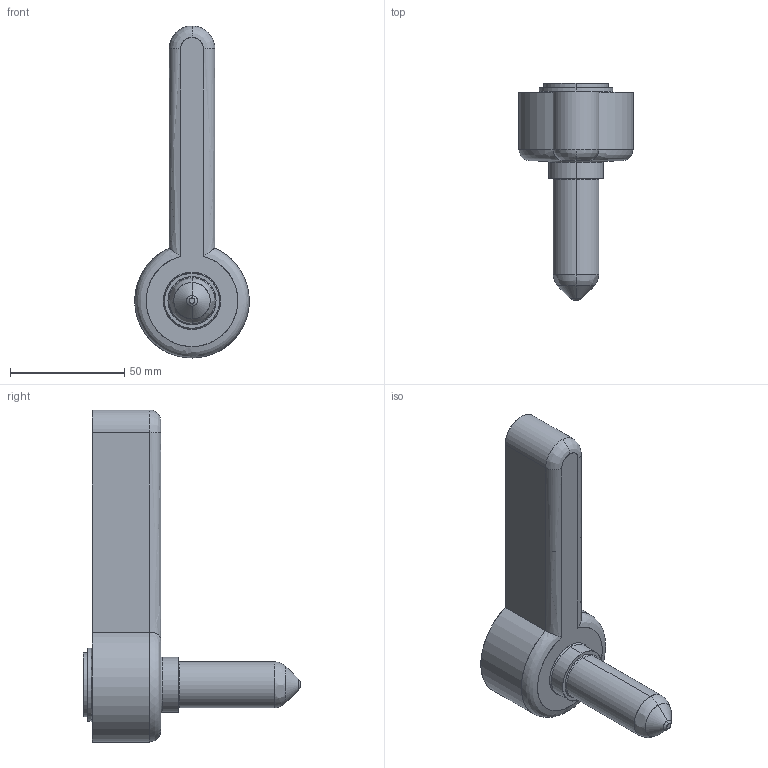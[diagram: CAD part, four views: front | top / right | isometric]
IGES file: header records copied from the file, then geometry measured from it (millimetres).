
Start section: SolidWorks IGES file using analytic representation for surfaces
Global section: file name: C:\Documents and Settings\ws-20\Desktop\TEM\Sede UGGS2530-S-0 C-61 L-93 Ød-2.5.IGS; native system: SolidWorks 2012; preprocessor: SolidWorks 2012; author: ws-20; date: 120516.094135; units: millimetre
Bounding box: 49.97 x 95.14 x 145 mm (x, y, z)
Surface area: 22704.9 mm2 (no closed solid volume)
Topology: 0 solids, 0 shells, 39 faces, 706 edges, 706 vertices
Faces by surface type: revolution 25, bspline 14
